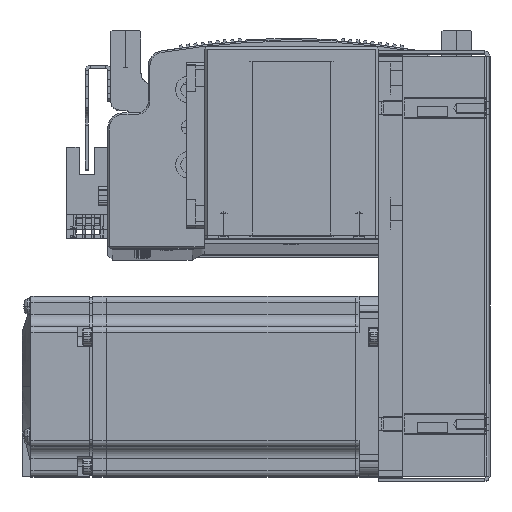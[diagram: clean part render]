
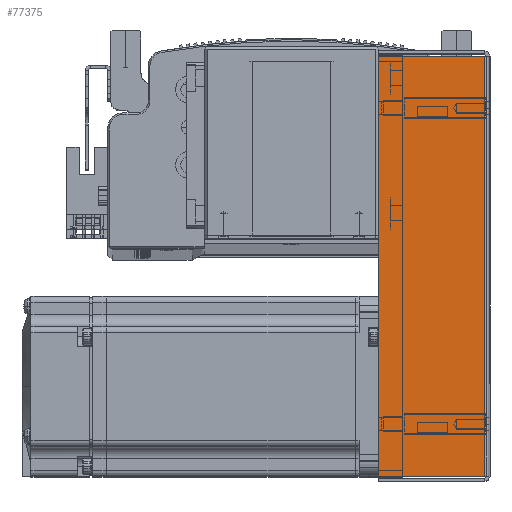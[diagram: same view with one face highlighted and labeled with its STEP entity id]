
A CAD part, top view. The second image highlights one B-rep face of the part: STEP entity #77375.
In plain terms, the highlighted planar face has unit normal (0, 0, 1).
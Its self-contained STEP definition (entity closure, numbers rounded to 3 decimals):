
#3051 = VERTEX_POINT ( 'NONE', #94854 ) ;
#3115 = VERTEX_POINT ( 'NONE', #94930 ) ;
#3163 = VERTEX_POINT ( 'NONE', #94938 ) ;
#3172 = VERTEX_POINT ( 'NONE', #94956 ) ;
#4733 = LINE ( 'NONE', #32813, #4813 ) ;
#4776 = LINE ( 'NONE', #23964, #4798 ) ;
#4798 = VECTOR ( 'NONE', #24031, 1000. ) ;
#4813 = VECTOR ( 'NONE', #32797, 1000. ) ;
#6185 = VECTOR ( 'NONE', #45720, 1000. ) ;
#6209 = VECTOR ( 'NONE', #46415, 1000. ) ;
#6217 = LINE ( 'NONE', #46407, #6209 ) ;
#6222 = LINE ( 'NONE', #46728, #6185 ) ;
#13569 = EDGE_CURVE ( 'NONE', #3172, #3051, #6217, .T. ) ;
#13574 = EDGE_CURVE ( 'NONE', #3163, #3172, #6222, .T. ) ;
#13637 = EDGE_CURVE ( 'NONE', #3163, #3115, #4733, .T. ) ;
#13668 = EDGE_CURVE ( 'NONE', #3115, #3051, #4776, .T. ) ;
#18373 = FACE_OUTER_BOUND ( 'NONE', #96877, .T. ) ;
#23964 = CARTESIAN_POINT ( 'NONE',  ( -69.793, 0., 33.5 ) ) ;
#24031 = DIRECTION ( 'NONE',  ( 0., 1., 0. ) ) ;
#32797 = DIRECTION ( 'NONE',  ( -1., 0., 0. ) ) ;
#32813 = CARTESIAN_POINT ( 'NONE',  ( -71.5, 0.737, 33.5 ) ) ;
#45720 = DIRECTION ( 'NONE',  ( 0., 1., 0. ) ) ;
#46407 = CARTESIAN_POINT ( 'NONE',  ( 0., 36., 33.5 ) ) ;
#46415 = DIRECTION ( 'NONE',  ( -1., 0., 0. ) ) ;
#46728 = CARTESIAN_POINT ( 'NONE',  ( 69.793, 0., 33.5 ) ) ;
#62355 = CARTESIAN_POINT ( 'NONE',  ( 0., 0., 33.5 ) ) ;
#62363 = DIRECTION ( 'NONE',  ( 0., 0., -1. ) ) ;
#62376 = PLANE ( 'NONE',  #91118 ) ;
#62384 = DIRECTION ( 'NONE',  ( -1., 0., 0. ) ) ;
#65685 = ORIENTED_EDGE ( 'NONE', *, *, #13668, .F. ) ;
#65695 = ORIENTED_EDGE ( 'NONE', *, *, #13637, .F. ) ;
#65717 = ORIENTED_EDGE ( 'NONE', *, *, #13574, .T. ) ;
#65718 = ORIENTED_EDGE ( 'NONE', *, *, #13569, .T. ) ;
#77375 = ADVANCED_FACE ( 'NONE', ( #18373 ), #62376, .F. ) ;
#91118 = AXIS2_PLACEMENT_3D ( 'NONE', #62355, #62363, #62384 ) ;
#94854 = CARTESIAN_POINT ( 'NONE',  ( -69.793, 36., 33.5 ) ) ;
#94930 = CARTESIAN_POINT ( 'NONE',  ( -69.793, 0.737, 33.5 ) ) ;
#94938 = CARTESIAN_POINT ( 'NONE',  ( 69.793, 0.737, 33.5 ) ) ;
#94956 = CARTESIAN_POINT ( 'NONE',  ( 69.793, 36., 33.5 ) ) ;
#96877 = EDGE_LOOP ( 'NONE', ( #65695, #65717, #65718, #65685 ) ) ;
